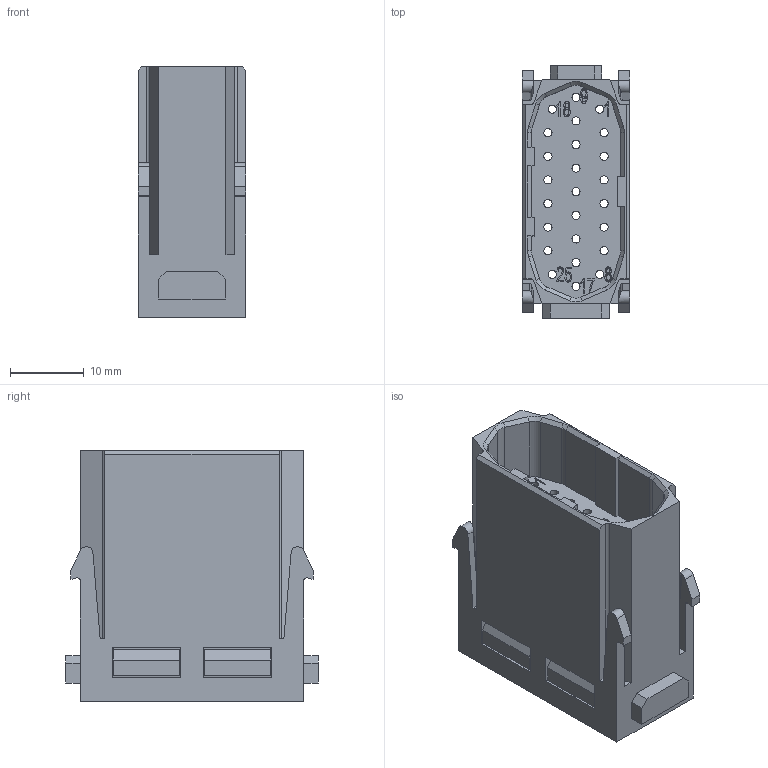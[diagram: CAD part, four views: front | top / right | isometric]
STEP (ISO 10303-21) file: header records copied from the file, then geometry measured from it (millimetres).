
FILE_DESCRIPTION(/* description */ (''),/* implementation_level */ '2;1');
FILE_NAME(/* name */ '100097707ugm000_d.stp',/* time_stamp */ '2022-03-11T09:44:56+01:00',/* author */ (''),/* organization */ (''),/* preprocessor_version */ 'ST-DEVELOPER v16.7',/* originating_system */ 'SIEMENS PLM Software NX 1911',/* authorisation */ '');
FILE_SCHEMA (('AUTOMOTIVE_DESIGN { 1 0 10303 214 3 1 1 1 }'));
Length unit declared in the file: millimetre
Products named in the file (1): 100097707ugm000_d
Bounding box: 14.6 x 34.2 x 34 mm (x, y, z)
Volume: 6386.2 mm3; surface area: 10371.7 mm2
Topology: 1 solids, 1 shells, 900 faces, 2289 edges, 1469 vertices
Faces by surface type: plane 558, cylinder 173, cone 135, extrusion 34
Full cylindrical faces by diameter (mm): 0.683 x1, 0.807 x1, 1.1 x25, 2.3 x50
Entity records: 33327 total; most frequent: CARTESIAN_POINT 5912, DIRECTION 4392, ORIENTED_EDGE 4374, EDGE_CURVE 2187, VECTOR 1478, VERTEX_POINT 1468, AXIS2_PLACEMENT_3D 1457, LINE 1444
